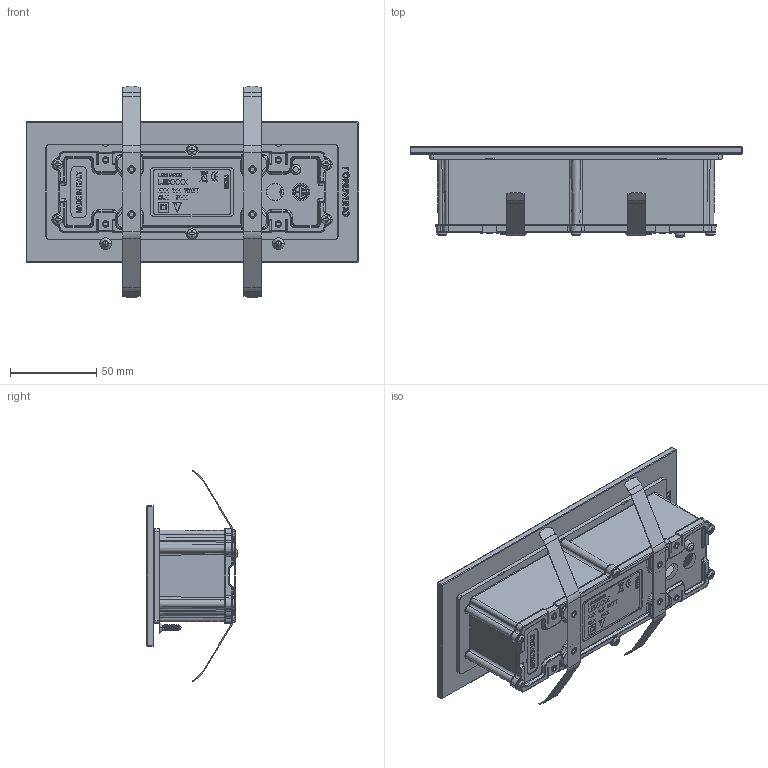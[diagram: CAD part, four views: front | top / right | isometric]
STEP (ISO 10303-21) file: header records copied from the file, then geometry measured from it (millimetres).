
FILE_DESCRIPTION((''),'2;1');
FILE_NAME('ASIMMETRICO_VERTICALE_SW0002','2025-07-29T11:28:42',('Piccioli'),(''),'CREO PARAMETRIC BY PTC INC, 2025010','CREO PARAMETRIC BY PTC INC, 2025010','');
FILE_SCHEMA(('CONFIG_CONTROL_DESIGN'));
Products named in the file (1): ASIMMETRICO_VERTICALE_SW0002
Bounding box: 192 x 52.1 x 122.36 mm (x, y, z)
Surface area: 106670.7 mm2 (no closed solid volume)
Topology: 0 solids, 112 shells, 1136 faces, 5144 edges, 3954 vertices
Faces by surface type: plane 456, cylinder 285, torus 133, cone 122, bspline 84, sphere 56
Entity records: 69707 total; most frequent: CARTESIAN_POINT 30007, DIRECTION 7849, ORIENTED_EDGE 7286, EDGE_CURVE 5136, VERTEX_POINT 3954, VECTOR 3177, LINE 3177, AXIS2_PLACEMENT_3D 2336
